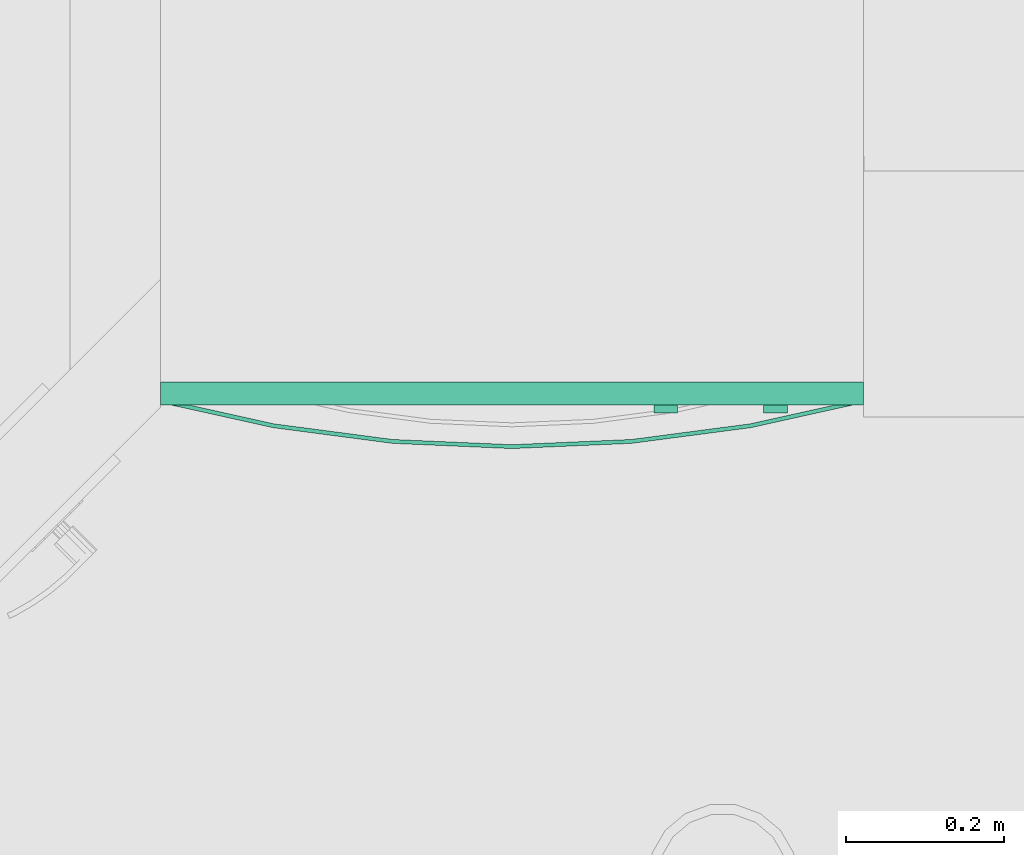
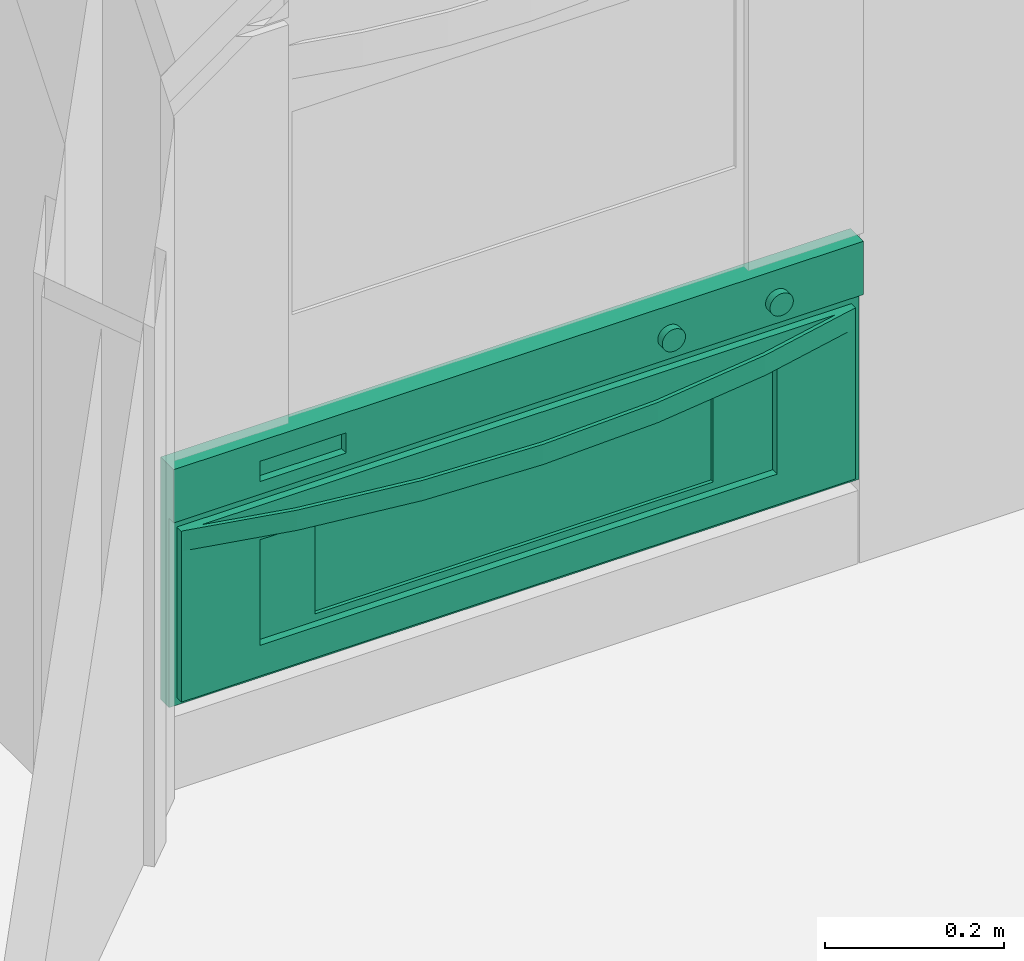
# One storey, part 43 of 103: 1 flow terminal.
"""IFC2X3 building model written with IfcOpenShell, lengths in inches."""

from ifc_helpers import new_model, entity, si_unit, converted_unit, derived_unit, money_unit, direction, frame, origin_with_axes, place, context, subcontext, project, spatial, faceted_brep, type_object, element, save


model = new_model("IFC2X3")

# Units and contexts
model_context = context("Model", 3, precision=0.00039370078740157, world=origin_with_axes(), true_north=direction((0.0, 1.0)))
plan_context = context("Plan", 3, precision=0.00039370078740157, world=origin_with_axes(), true_north=direction((0.0, 1.0)))
body_context = subcontext(model_context, "Body", "Model", "MODEL_VIEW")
ifc_project = project(units=[converted_unit("LENGTHUNIT", "INCH", entity("IfcPositiveLengthMeasure", 0.0254), si_unit("LENGTHUNIT", "METRE"), dimensions=[1, 0, 0, 0, 0, 0, 0]), converted_unit("AREAUNIT", "SQUARE_FOOT", entity("IfcPositiveLengthMeasure", 0.09290304), si_unit("AREAUNIT", "SQUARE_METRE"), dimensions=[2, 0, 0, 0, 0, 0, 0]), si_unit("PLANEANGLEUNIT", "RADIAN"), si_unit("SOLIDANGLEUNIT", "STERADIAN"), money_unit("USD"), converted_unit("TIMEUNIT", "Year", entity("IfcTimeMeasure", 31557600.0), si_unit("TIMEUNIT", "SECOND"), dimensions=[0, 0, 1, 0, 0, 0, 0]), si_unit("MASSUNIT", "GRAM", prefix="KILO"), si_unit("THERMODYNAMICTEMPERATUREUNIT", "DEGREE_CELSIUS"), si_unit("LUMINOUSINTENSITYUNIT", "LUMEN"), si_unit("ENERGYUNIT", "JOULE", prefix="MEGA"), derived_unit("SPECIFICHEATCAPACITYUNIT", [(si_unit("ENERGYUNIT", "JOULE"), 1), (si_unit("MASSUNIT", "GRAM", prefix="KILO"), -1), (si_unit("THERMODYNAMICTEMPERATUREUNIT", "KELVIN"), -1)])], contexts=[model_context, plan_context])

# Site, building, storey
site_placement = place(None, origin_with_axes())
site = spatial("IfcSite", under=ifc_project, at=site_placement, Name="Site", CompositionType="ELEMENT")
building_placement = place(site_placement, origin_with_axes())
building = spatial("IfcBuilding", under=site, at=building_placement, Name="Building", CompositionType="ELEMENT")
storey_placement = place(building_placement, frame((0.0, 0.0, 127.9999999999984), z_axis=(0.0, 0.0, 1.0), x_axis=(1.0, 0.0, 0.0)))
storey = spatial("IfcBuildingStorey", under=building, at=storey_placement, Name="Second Floor", CompositionType="ELEMENT", Elevation=128.0)

# Flow terminal
electric_appliance_type = type_object("IfcElectricApplianceType", Name="Oven Built-in", PredefinedType="NOTDEFINED")
flow_terminal_placement = place(storey_placement, frame((28.99952142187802, 371.4926862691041, 4.555499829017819), z_axis=(0.0, 0.0, 1.0), x_axis=(0.9999999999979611, 2.01938114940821e-06, 0.0)))
element("IfcFlowTerminal", 1, at=flow_terminal_placement, inside=storey, type_object=electric_appliance_type, Name="OBJ-20", context=body_context, shape_type="Brep", body=[
    faceted_brep([(0.0, 0.7499999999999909, 0.0), (34.99999999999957, 0.7499999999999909, 0.0), (34.99999999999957, 0.0, 0.0), (0.0, 0.0, 0.0), (0.0, 0.7499999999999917, 12.99999999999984), (34.99999999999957, 0.7499999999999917, 12.99999999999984), (7.393700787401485, 0.749999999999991, 2.43749999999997), (27.60629921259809, 0.749999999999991, 2.43749999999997), (27.60629921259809, 0.7499999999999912, 7.31249999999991), (7.393700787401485, 0.7499999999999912, 7.31249999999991), (34.99999999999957, 0.0, 12.99999999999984), (0.0, 0.0, 12.99999999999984), (7.393700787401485, 0.0, 2.43749999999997), (7.393700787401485, 0.0, 7.31249999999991), (27.60629921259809, 0.0, 7.31249999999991), (27.60629921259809, 0.0, 2.43749999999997)], [[[0, 1, 2, 3]], [[0, 4, 5, 1], [6, 7, 8, 9]], [[1, 5, 10, 2]], [[3, 2, 10, 11], [12, 13, 14, 15]], [[4, 0, 3, 11]], [[5, 4, 11, 10]], [[7, 6, 12, 15]], [[8, 7, 15, 14]], [[9, 8, 14, 13]], [[6, 9, 13, 12]]]),
    faceted_brep([(7.393700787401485, 0.5624999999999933, 2.43749999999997), (27.60629921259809, 0.5624999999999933, 2.43749999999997), (27.60629921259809, 0.1874999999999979, 2.43749999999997), (7.393700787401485, 0.1874999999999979, 2.43749999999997), (7.393700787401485, 0.5624999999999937, 7.31249999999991), (27.60629921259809, 0.5624999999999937, 7.31249999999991), (27.60629921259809, 0.1874999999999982, 7.31249999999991), (7.393700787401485, 0.1874999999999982, 7.31249999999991)], [[[0, 1, 2, 3]], [[0, 4, 5, 1]], [[1, 5, 6, 2]], [[3, 2, 6, 7]], [[4, 0, 3, 7]], [[5, 4, 7, 6]]]),
    faceted_brep([(0.39370078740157, 0.0, 0.39370078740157), (34.606299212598, 0.0, 0.39370078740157), (34.606299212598, -0.39370078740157, 0.39370078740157), (0.39370078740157, -0.39370078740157, 0.39370078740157), (0.39370078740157, 0.0, 9.553149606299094), (34.606299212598, 0.0, 9.553149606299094), (4.374999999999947, 0.0, 2.0437992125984), (30.62499999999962, 0.0, 2.0437992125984), (30.62499999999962, 0.0, 7.706200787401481), (4.374999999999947, 0.0, 7.706200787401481), (34.606299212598, -0.3937007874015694, 9.553149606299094), (0.39370078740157, -0.3937007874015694, 9.553149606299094), (4.374999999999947, -0.3937007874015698, 2.0437992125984), (4.374999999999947, -0.3937007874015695, 7.706200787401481), (30.62499999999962, -0.3937007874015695, 7.706200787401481), (30.62499999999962, -0.3937007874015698, 2.0437992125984)], [[[0, 1, 2, 3]], [[0, 4, 5, 1], [6, 7, 8, 9]], [[1, 5, 10, 2]], [[3, 2, 10, 11], [12, 13, 14, 15]], [[4, 0, 3, 11]], [[5, 4, 11, 10]], [[7, 6, 12, 15]], [[8, 7, 15, 14]], [[9, 8, 14, 13]], [[6, 9, 13, 12]]]),
    faceted_brep([(0.0, 0.0, 10.14370078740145), (34.99999999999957, 0.0, 10.14370078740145), (34.99999999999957, -0.39370078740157, 10.14370078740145), (0.0, -0.39370078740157, 10.14370078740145), (0.0, 0.0, 12.99999999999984), (34.99999999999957, 0.0, 12.99999999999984), (4.374999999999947, 0.0, 11.91666666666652), (4.374999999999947, 0.0, 10.8333333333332), (8.749999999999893, 0.0, 10.8333333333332), (8.749999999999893, 0.0, 11.91666666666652), (34.99999999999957, -0.3937007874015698, 12.99999999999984), (0.0, -0.3937007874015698, 12.99999999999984), (4.374999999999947, -0.3937007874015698, 11.91666666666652), (8.749999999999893, -0.3937007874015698, 11.91666666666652), (8.749999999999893, -0.3937007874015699, 10.8333333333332), (4.374999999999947, -0.3937007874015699, 10.8333333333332)], [[[0, 1, 2, 3]], [[0, 4, 5, 1], [6, 7, 8, 9]], [[1, 5, 10, 2]], [[3, 2, 10, 11], [12, 13, 14, 15]], [[4, 0, 3, 11]], [[5, 4, 11, 10]], [[7, 6, 12, 15]], [[8, 7, 15, 14]], [[9, 8, 14, 13]], [[6, 9, 13, 12]]]),
    faceted_brep([(0.5063180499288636, -0.3937007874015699, 8.469816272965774), (5.61808926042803, -1.526953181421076, 8.469816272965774), (5.61808926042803, -1.526953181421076, 9.553149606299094), (0.506318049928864, -0.3937007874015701, 9.553149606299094), (34.49368195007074, -0.3937007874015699, 8.469816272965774), (29.38191073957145, -1.526953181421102, 8.469816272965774), (23.46364885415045, -2.306107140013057, 8.469816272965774), (17.49999999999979, -2.566485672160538, 8.469816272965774), (11.53635114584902, -2.306107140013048, 8.469816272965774), (1.414945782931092, -0.39370078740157, 8.469816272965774), (5.652271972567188, -1.333093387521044, 8.469816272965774), (11.55350778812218, -2.110005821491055, 8.469816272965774), (17.49999999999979, -2.369635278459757, 8.469816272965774), (23.44649221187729, -2.110005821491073, 8.469816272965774), (29.34772802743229, -1.333093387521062, 8.469816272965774), (33.58505421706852, -0.39370078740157, 8.469816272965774), (11.53635114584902, -2.306107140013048, 9.553149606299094), (17.49999999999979, -2.566485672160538, 9.553149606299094), (23.46364885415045, -2.306107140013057, 9.553149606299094), (29.38191073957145, -1.526953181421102, 9.553149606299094), (34.49368195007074, -0.3937007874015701, 9.553149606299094), (33.58505421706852, -0.3937007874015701, 9.553149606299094), (29.34772802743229, -1.333093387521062, 9.553149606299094), (23.44649221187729, -2.110005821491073, 9.553149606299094), (17.49999999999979, -2.369635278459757, 9.553149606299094), (11.55350778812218, -2.110005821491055, 9.553149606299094), (5.652271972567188, -1.333093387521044, 9.553149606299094), (1.414945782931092, -0.3937007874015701, 9.553149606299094)], [[[0, 1, 2, 3]], [[4, 5, 6, 7, 8, 1, 0, 9, 10, 11, 12, 13, 14, 15]], [[1, 8, 16, 2]], [[3, 2, 16, 17, 18, 19, 20, 21, 22, 23, 24, 25, 26, 27]], [[0, 3, 27, 9]], [[5, 4, 20, 19]], [[6, 5, 19, 18]], [[7, 6, 18, 17]], [[8, 7, 17, 16]], [[10, 9, 27, 26]], [[11, 10, 26, 25]], [[12, 11, 25, 24]], [[13, 12, 24, 23]], [[14, 13, 23, 22]], [[15, 14, 22, 21]], [[4, 15, 21, 20]]]),
    faceted_brep([(31.21330395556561, -0.39370078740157, 11.32353007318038), (31.20657938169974, -0.39370078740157, 11.27245186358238), (31.1954286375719, -0.39370078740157, 11.22215410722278), (31.17993658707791, -0.39370078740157, 11.17301960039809), (31.16022113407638, -0.39370078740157, 11.12542228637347), (31.13643232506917, -0.39370078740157, 11.07972440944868), (31.1087512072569, -0.39370078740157, 11.03627375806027), (31.07738845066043, -0.39370078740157, 10.99540101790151), (31.04258274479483, -0.39370078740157, 10.95741725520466), (31.00459898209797, -0.39370078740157, 10.92261154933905), (30.96372624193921, -0.39370078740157, 10.89124879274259), (30.9202755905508, -0.39370078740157, 10.86356767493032), (30.87457771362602, -0.39370078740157, 10.8397788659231), (30.8269803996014, -0.39370078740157, 10.82006341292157), (30.7778458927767, -0.3937007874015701, 10.80457136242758), (30.7275481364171, -0.3937007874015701, 10.79342061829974), (30.67646992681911, -0.3937007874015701, 10.78669604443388), (30.62499999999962, -0.3937007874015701, 10.7844488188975), (30.57353007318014, -0.3937007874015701, 10.78669604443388), (30.52245186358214, -0.3937007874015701, 10.79342061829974), (30.47215410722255, -0.3937007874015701, 10.80457136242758), (30.42301960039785, -0.39370078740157, 10.82006341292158), (30.37542228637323, -0.39370078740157, 10.8397788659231), (30.32972440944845, -0.39370078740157, 10.86356767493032), (30.28627375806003, -0.39370078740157, 10.89124879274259), (30.24540101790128, -0.39370078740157, 10.92261154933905), (30.20741725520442, -0.39370078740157, 10.95741725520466), (30.17261154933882, -0.39370078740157, 10.99540101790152), (30.14124879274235, -0.39370078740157, 11.03627375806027), (30.11356767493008, -0.39370078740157, 11.07972440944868), (30.08977886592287, -0.39370078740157, 11.12542228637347), (30.07006341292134, -0.39370078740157, 11.17301960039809), (30.05457136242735, -0.39370078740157, 11.22215410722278), (30.04342061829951, -0.39370078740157, 11.27245186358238), (30.03669604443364, -0.39370078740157, 11.32353007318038), (30.03444881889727, -0.39370078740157, 11.37499999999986), (30.03669604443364, -0.39370078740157, 11.42646992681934), (30.04342061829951, -0.39370078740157, 11.47754813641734), (30.05457136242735, -0.39370078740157, 11.52784589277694), (30.07006341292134, -0.39370078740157, 11.57698039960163), (30.08977886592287, -0.39370078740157, 11.62457771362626), (30.11356767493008, -0.39370078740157, 11.67027559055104), (30.14124879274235, -0.39370078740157, 11.71372624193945), (30.17261154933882, -0.39370078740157, 11.75459898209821), (30.20741725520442, -0.39370078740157, 11.79258274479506), (30.24540101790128, -0.39370078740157, 11.82738845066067), (30.28627375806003, -0.39370078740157, 11.85875120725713), (30.32972440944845, -0.39370078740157, 11.88643232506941), (30.37542228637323, -0.39370078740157, 11.91022113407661), (30.42301960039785, -0.39370078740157, 11.92993658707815), (30.47215410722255, -0.3937007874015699, 11.94542863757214), (30.52245186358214, -0.3937007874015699, 11.95657938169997), (30.57353007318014, -0.3937007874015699, 11.96330395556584), (30.62499999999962, -0.3937007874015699, 11.96555118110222), (30.67646992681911, -0.3937007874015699, 11.96330395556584), (30.7275481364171, -0.3937007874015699, 11.95657938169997), (30.7778458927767, -0.3937007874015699, 11.94542863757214), (30.8269803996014, -0.39370078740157, 11.92993658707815), (30.87457771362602, -0.39370078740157, 11.91022113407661), (30.9202755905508, -0.39370078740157, 11.88643232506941), (30.96372624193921, -0.39370078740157, 11.85875120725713), (31.00459898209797, -0.39370078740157, 11.82738845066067), (31.04258274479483, -0.39370078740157, 11.79258274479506), (31.07738845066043, -0.39370078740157, 11.75459898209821), (31.1087512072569, -0.39370078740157, 11.71372624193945), (31.13643232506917, -0.39370078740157, 11.67027559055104), (31.16022113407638, -0.39370078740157, 11.62457771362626), (31.17993658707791, -0.39370078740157, 11.57698039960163), (31.1954286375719, -0.39370078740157, 11.52784589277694), (31.20657938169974, -0.39370078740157, 11.47754813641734), (31.21330395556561, -0.39370078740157, 11.42646992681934), (31.21555118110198, -0.39370078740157, 11.37499999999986), (31.21330395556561, -0.78740157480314, 11.32353007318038), (31.20657938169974, -0.78740157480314, 11.27245186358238), (31.1954286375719, -0.78740157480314, 11.22215410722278), (31.17993658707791, -0.78740157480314, 11.17301960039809), (31.16022113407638, -0.78740157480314, 11.12542228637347), (31.13643232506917, -0.78740157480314, 11.07972440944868), (31.1087512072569, -0.78740157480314, 11.03627375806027), (31.07738845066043, -0.78740157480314, 10.99540101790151), (31.04258274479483, -0.78740157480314, 10.95741725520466), (31.00459898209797, -0.78740157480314, 10.92261154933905), (30.96372624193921, -0.78740157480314, 10.89124879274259), (30.9202755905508, -0.78740157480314, 10.86356767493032), (30.87457771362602, -0.78740157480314, 10.8397788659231), (30.8269803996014, -0.78740157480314, 10.82006341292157), (30.7778458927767, -0.7874015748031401, 10.80457136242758), (30.7275481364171, -0.7874015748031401, 10.79342061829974), (30.67646992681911, -0.7874015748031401, 10.78669604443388), (30.62499999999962, -0.7874015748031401, 10.7844488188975), (30.57353007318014, -0.7874015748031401, 10.78669604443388), (30.52245186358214, -0.7874015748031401, 10.79342061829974), (30.47215410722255, -0.7874015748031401, 10.80457136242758), (30.42301960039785, -0.78740157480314, 10.82006341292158), (30.37542228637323, -0.78740157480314, 10.8397788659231), (30.32972440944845, -0.78740157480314, 10.86356767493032), (30.28627375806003, -0.78740157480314, 10.89124879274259), (30.24540101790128, -0.78740157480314, 10.92261154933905), (30.20741725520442, -0.78740157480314, 10.95741725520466), (30.17261154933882, -0.78740157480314, 10.99540101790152), (30.14124879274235, -0.78740157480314, 11.03627375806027), (30.11356767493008, -0.78740157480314, 11.07972440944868), (30.08977886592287, -0.78740157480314, 11.12542228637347), (30.07006341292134, -0.78740157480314, 11.17301960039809), (30.05457136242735, -0.78740157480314, 11.22215410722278), (30.04342061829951, -0.78740157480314, 11.27245186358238), (30.03669604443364, -0.78740157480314, 11.32353007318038), (30.03444881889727, -0.78740157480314, 11.37499999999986), (30.03669604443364, -0.78740157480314, 11.42646992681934), (30.04342061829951, -0.78740157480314, 11.47754813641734), (30.05457136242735, -0.78740157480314, 11.52784589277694), (30.07006341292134, -0.78740157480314, 11.57698039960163), (30.08977886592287, -0.78740157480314, 11.62457771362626), (30.11356767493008, -0.78740157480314, 11.67027559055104), (30.14124879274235, -0.78740157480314, 11.71372624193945), (30.17261154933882, -0.78740157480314, 11.75459898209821), (30.20741725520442, -0.78740157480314, 11.79258274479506), (30.24540101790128, -0.78740157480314, 11.82738845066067), (30.28627375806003, -0.78740157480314, 11.85875120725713), (30.32972440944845, -0.78740157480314, 11.88643232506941), (30.37542228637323, -0.78740157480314, 11.91022113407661), (30.42301960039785, -0.78740157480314, 11.92993658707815), (30.47215410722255, -0.7874015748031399, 11.94542863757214), (30.52245186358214, -0.7874015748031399, 11.95657938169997), (30.57353007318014, -0.7874015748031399, 11.96330395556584), (30.62499999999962, -0.7874015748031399, 11.96555118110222), (30.67646992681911, -0.7874015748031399, 11.96330395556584), (30.7275481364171, -0.7874015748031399, 11.95657938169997), (30.7778458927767, -0.7874015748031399, 11.94542863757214), (30.8269803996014, -0.78740157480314, 11.92993658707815), (30.87457771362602, -0.78740157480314, 11.91022113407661), (30.9202755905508, -0.78740157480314, 11.88643232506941), (30.96372624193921, -0.78740157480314, 11.85875120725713), (31.00459898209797, -0.78740157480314, 11.82738845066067), (31.04258274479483, -0.78740157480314, 11.79258274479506), (31.07738845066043, -0.78740157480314, 11.75459898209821), (31.1087512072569, -0.78740157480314, 11.71372624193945), (31.13643232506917, -0.78740157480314, 11.67027559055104), (31.16022113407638, -0.78740157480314, 11.62457771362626), (31.17993658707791, -0.78740157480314, 11.57698039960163), (31.1954286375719, -0.78740157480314, 11.52784589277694), (31.20657938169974, -0.78740157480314, 11.47754813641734), (31.21330395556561, -0.78740157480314, 11.42646992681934), (31.21555118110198, -0.78740157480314, 11.37499999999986)], [[[0, 1, 2, 3, 4, 5, 6, 7, 8, 9, 10, 11, 12, 13, 14, 15, 16, 17, 18, 19, 20, 21, 22, 23, 24, 25, 26, 27, 28, 29, 30, 31, 32, 33, 34, 35, 36, 37, 38, 39, 40, 41, 42, 43, 44, 45, 46, 47, 48, 49, 50, 51, 52, 53, 54, 55, 56, 57, 58, 59, 60, 61, 62, 63, 64, 65, 66, 67, 68, 69, 70, 71]], [[1, 0, 72, 73]], [[2, 1, 73, 74]], [[3, 2, 74, 75]], [[4, 3, 75, 76]], [[5, 4, 76, 77]], [[6, 5, 77, 78]], [[7, 6, 78, 79]], [[8, 7, 79, 80]], [[9, 8, 80, 81]], [[10, 9, 81, 82]], [[11, 10, 82, 83]], [[12, 11, 83, 84]], [[13, 12, 84, 85]], [[14, 13, 85, 86]], [[15, 14, 86, 87]], [[16, 15, 87, 88]], [[17, 16, 88, 89]], [[18, 17, 89, 90]], [[19, 18, 90, 91]], [[20, 19, 91, 92]], [[21, 20, 92, 93]], [[22, 21, 93, 94]], [[23, 22, 94, 95]], [[24, 23, 95, 96]], [[25, 24, 96, 97]], [[26, 25, 97, 98]], [[27, 26, 98, 99]], [[28, 27, 99, 100]], [[29, 28, 100, 101]], [[30, 29, 101, 102]], [[31, 30, 102, 103]], [[32, 31, 103, 104]], [[33, 32, 104, 105]], [[34, 33, 105, 106]], [[35, 34, 106, 107]], [[36, 35, 107, 108]], [[37, 36, 108, 109]], [[38, 37, 109, 110]], [[39, 38, 110, 111]], [[40, 39, 111, 112]], [[41, 40, 112, 113]], [[42, 41, 113, 114]], [[43, 42, 114, 115]], [[44, 43, 115, 116]], [[45, 44, 116, 117]], [[46, 45, 117, 118]], [[47, 46, 118, 119]], [[48, 47, 119, 120]], [[49, 48, 120, 121]], [[50, 49, 121, 122]], [[51, 50, 122, 123]], [[52, 51, 123, 124]], [[53, 52, 124, 125]], [[54, 53, 125, 126]], [[55, 54, 126, 127]], [[56, 55, 127, 128]], [[57, 56, 128, 129]], [[58, 57, 129, 130]], [[59, 58, 130, 131]], [[60, 59, 131, 132]], [[61, 60, 132, 133]], [[62, 61, 133, 134]], [[63, 62, 134, 135]], [[64, 63, 135, 136]], [[65, 64, 136, 137]], [[66, 65, 137, 138]], [[67, 66, 138, 139]], [[68, 67, 139, 140]], [[69, 68, 140, 141]], [[70, 69, 141, 142]], [[71, 70, 142, 143]], [[0, 71, 143, 72]], [[72, 143, 142, 141, 140, 139, 138, 137, 136, 135, 134, 133, 132, 131, 130, 129, 128, 127, 126, 125, 124, 123, 122, 121, 120, 119, 118, 117, 116, 115, 114, 113, 112, 111, 110, 109, 108, 107, 106, 105, 104, 103, 102, 101, 100, 99, 98, 97, 96, 95, 94, 93, 92, 91, 90, 89, 88, 87, 86, 85, 84, 83, 82, 81, 80, 79, 78, 77, 76, 75, 74, 73]]]),
    faceted_brep([(25.74455395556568, -0.39370078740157, 11.32353007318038), (25.73782938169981, -0.39370078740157, 11.27245186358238), (25.72667863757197, -0.39370078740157, 11.22215410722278), (25.71118658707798, -0.39370078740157, 11.17301960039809), (25.69147113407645, -0.39370078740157, 11.12542228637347), (25.66768232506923, -0.39370078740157, 11.07972440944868), (25.64000120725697, -0.39370078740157, 11.03627375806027), (25.6086384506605, -0.39370078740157, 10.99540101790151), (25.57383274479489, -0.39370078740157, 10.95741725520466), (25.53584898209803, -0.39370078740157, 10.92261154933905), (25.49497624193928, -0.39370078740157, 10.89124879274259), (25.45152559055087, -0.39370078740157, 10.86356767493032), (25.40582771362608, -0.39370078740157, 10.8397788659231), (25.35823039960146, -0.39370078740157, 10.82006341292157), (25.30909589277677, -0.3937007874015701, 10.80457136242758), (25.25879813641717, -0.3937007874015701, 10.79342061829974), (25.20771992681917, -0.3937007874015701, 10.78669604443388), (25.15624999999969, -0.3937007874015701, 10.7844488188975), (25.1047800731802, -0.3937007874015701, 10.78669604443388), (25.05370186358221, -0.3937007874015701, 10.79342061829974), (25.00340410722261, -0.3937007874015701, 10.80457136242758), (24.95426960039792, -0.39370078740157, 10.82006341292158), (24.90667228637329, -0.39370078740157, 10.8397788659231), (24.86097440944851, -0.39370078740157, 10.86356767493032), (24.8175237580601, -0.39370078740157, 10.89124879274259), (24.77665101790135, -0.39370078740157, 10.92261154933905), (24.73866725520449, -0.39370078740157, 10.95741725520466), (24.70386154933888, -0.39370078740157, 10.99540101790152), (24.67249879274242, -0.39370078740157, 11.03627375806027), (24.64481767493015, -0.39370078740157, 11.07972440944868), (24.62102886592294, -0.39370078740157, 11.12542228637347), (24.6013134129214, -0.39370078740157, 11.17301960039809), (24.58582136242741, -0.39370078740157, 11.22215410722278), (24.57467061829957, -0.39370078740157, 11.27245186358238), (24.5679460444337, -0.39370078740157, 11.32353007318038), (24.56569881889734, -0.39370078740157, 11.37499999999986), (24.5679460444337, -0.39370078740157, 11.42646992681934), (24.57467061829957, -0.39370078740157, 11.47754813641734), (24.58582136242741, -0.39370078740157, 11.52784589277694), (24.6013134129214, -0.39370078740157, 11.57698039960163), (24.62102886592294, -0.39370078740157, 11.62457771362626), (24.64481767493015, -0.39370078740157, 11.67027559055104), (24.67249879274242, -0.39370078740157, 11.71372624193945), (24.70386154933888, -0.39370078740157, 11.75459898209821), (24.73866725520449, -0.39370078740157, 11.79258274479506), (24.77665101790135, -0.39370078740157, 11.82738845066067), (24.8175237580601, -0.39370078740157, 11.85875120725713), (24.86097440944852, -0.39370078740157, 11.88643232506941), (24.9066722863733, -0.39370078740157, 11.91022113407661), (24.95426960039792, -0.39370078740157, 11.92993658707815), (25.00340410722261, -0.3937007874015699, 11.94542863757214), (25.05370186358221, -0.3937007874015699, 11.95657938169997), (25.1047800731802, -0.3937007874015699, 11.96330395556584), (25.15624999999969, -0.3937007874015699, 11.96555118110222), (25.20771992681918, -0.3937007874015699, 11.96330395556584), (25.25879813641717, -0.3937007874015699, 11.95657938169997), (25.30909589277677, -0.3937007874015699, 11.94542863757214), (25.35823039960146, -0.39370078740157, 11.92993658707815), (25.40582771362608, -0.39370078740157, 11.91022113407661), (25.45152559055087, -0.39370078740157, 11.88643232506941), (25.49497624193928, -0.39370078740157, 11.85875120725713), (25.53584898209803, -0.39370078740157, 11.82738845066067), (25.57383274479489, -0.39370078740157, 11.79258274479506), (25.6086384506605, -0.39370078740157, 11.75459898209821), (25.64000120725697, -0.39370078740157, 11.71372624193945), (25.66768232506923, -0.39370078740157, 11.67027559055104), (25.69147113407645, -0.39370078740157, 11.62457771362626), (25.71118658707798, -0.39370078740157, 11.57698039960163), (25.72667863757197, -0.39370078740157, 11.52784589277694), (25.73782938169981, -0.39370078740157, 11.47754813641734), (25.74455395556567, -0.39370078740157, 11.42646992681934), (25.74680118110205, -0.39370078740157, 11.37499999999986), (25.74455395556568, -0.78740157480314, 11.32353007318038), (25.73782938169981, -0.78740157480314, 11.27245186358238), (25.72667863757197, -0.78740157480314, 11.22215410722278), (25.71118658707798, -0.78740157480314, 11.17301960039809), (25.69147113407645, -0.78740157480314, 11.12542228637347), (25.66768232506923, -0.78740157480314, 11.07972440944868), (25.64000120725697, -0.78740157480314, 11.03627375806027), (25.6086384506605, -0.78740157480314, 10.99540101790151), (25.57383274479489, -0.78740157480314, 10.95741725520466), (25.53584898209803, -0.78740157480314, 10.92261154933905), (25.49497624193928, -0.78740157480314, 10.89124879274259), (25.45152559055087, -0.78740157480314, 10.86356767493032), (25.40582771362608, -0.78740157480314, 10.8397788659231), (25.35823039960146, -0.78740157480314, 10.82006341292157), (25.30909589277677, -0.7874015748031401, 10.80457136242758), (25.25879813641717, -0.7874015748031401, 10.79342061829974), (25.20771992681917, -0.7874015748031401, 10.78669604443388), (25.15624999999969, -0.7874015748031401, 10.7844488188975), (25.1047800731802, -0.7874015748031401, 10.78669604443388), (25.05370186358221, -0.7874015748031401, 10.79342061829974), (25.00340410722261, -0.7874015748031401, 10.80457136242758), (24.95426960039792, -0.78740157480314, 10.82006341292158), (24.90667228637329, -0.78740157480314, 10.8397788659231), (24.86097440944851, -0.78740157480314, 10.86356767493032), (24.8175237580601, -0.78740157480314, 10.89124879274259), (24.77665101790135, -0.78740157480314, 10.92261154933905), (24.73866725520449, -0.78740157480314, 10.95741725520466), (24.70386154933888, -0.78740157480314, 10.99540101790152), (24.67249879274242, -0.78740157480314, 11.03627375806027), (24.64481767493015, -0.78740157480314, 11.07972440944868), (24.62102886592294, -0.78740157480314, 11.12542228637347), (24.6013134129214, -0.78740157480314, 11.17301960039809), (24.58582136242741, -0.78740157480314, 11.22215410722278), (24.57467061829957, -0.78740157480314, 11.27245186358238), (24.5679460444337, -0.78740157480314, 11.32353007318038), (24.56569881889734, -0.78740157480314, 11.37499999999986), (24.5679460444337, -0.78740157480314, 11.42646992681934), (24.57467061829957, -0.78740157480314, 11.47754813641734), (24.58582136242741, -0.78740157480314, 11.52784589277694), (24.6013134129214, -0.78740157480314, 11.57698039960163), (24.62102886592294, -0.78740157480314, 11.62457771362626), (24.64481767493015, -0.78740157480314, 11.67027559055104), (24.67249879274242, -0.78740157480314, 11.71372624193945), (24.70386154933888, -0.78740157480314, 11.75459898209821), (24.73866725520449, -0.78740157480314, 11.79258274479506), (24.77665101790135, -0.78740157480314, 11.82738845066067), (24.8175237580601, -0.78740157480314, 11.85875120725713), (24.86097440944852, -0.78740157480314, 11.88643232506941), (24.9066722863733, -0.78740157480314, 11.91022113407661), (24.95426960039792, -0.78740157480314, 11.92993658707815), (25.00340410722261, -0.7874015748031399, 11.94542863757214), (25.05370186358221, -0.7874015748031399, 11.95657938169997), (25.1047800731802, -0.7874015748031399, 11.96330395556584), (25.15624999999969, -0.7874015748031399, 11.96555118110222), (25.20771992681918, -0.7874015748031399, 11.96330395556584), (25.25879813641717, -0.7874015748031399, 11.95657938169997), (25.30909589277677, -0.7874015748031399, 11.94542863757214), (25.35823039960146, -0.78740157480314, 11.92993658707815), (25.40582771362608, -0.78740157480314, 11.91022113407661), (25.45152559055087, -0.78740157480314, 11.88643232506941), (25.49497624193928, -0.78740157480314, 11.85875120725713), (25.53584898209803, -0.78740157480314, 11.82738845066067), (25.57383274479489, -0.78740157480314, 11.79258274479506), (25.6086384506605, -0.78740157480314, 11.75459898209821), (25.64000120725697, -0.78740157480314, 11.71372624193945), (25.66768232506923, -0.78740157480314, 11.67027559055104), (25.69147113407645, -0.78740157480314, 11.62457771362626), (25.71118658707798, -0.78740157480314, 11.57698039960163), (25.72667863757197, -0.78740157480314, 11.52784589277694), (25.73782938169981, -0.78740157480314, 11.47754813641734), (25.74455395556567, -0.78740157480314, 11.42646992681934), (25.74680118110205, -0.78740157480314, 11.37499999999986)], [[[0, 1, 2, 3, 4, 5, 6, 7, 8, 9, 10, 11, 12, 13, 14, 15, 16, 17, 18, 19, 20, 21, 22, 23, 24, 25, 26, 27, 28, 29, 30, 31, 32, 33, 34, 35, 36, 37, 38, 39, 40, 41, 42, 43, 44, 45, 46, 47, 48, 49, 50, 51, 52, 53, 54, 55, 56, 57, 58, 59, 60, 61, 62, 63, 64, 65, 66, 67, 68, 69, 70, 71]], [[1, 0, 72, 73]], [[2, 1, 73, 74]], [[3, 2, 74, 75]], [[4, 3, 75, 76]], [[5, 4, 76, 77]], [[6, 5, 77, 78]], [[7, 6, 78, 79]], [[8, 7, 79, 80]], [[9, 8, 80, 81]], [[10, 9, 81, 82]], [[11, 10, 82, 83]], [[12, 11, 83, 84]], [[13, 12, 84, 85]], [[14, 13, 85, 86]], [[15, 14, 86, 87]], [[16, 15, 87, 88]], [[17, 16, 88, 89]], [[18, 17, 89, 90]], [[19, 18, 90, 91]], [[20, 19, 91, 92]], [[21, 20, 92, 93]], [[22, 21, 93, 94]], [[23, 22, 94, 95]], [[24, 23, 95, 96]], [[25, 24, 96, 97]], [[26, 25, 97, 98]], [[27, 26, 98, 99]], [[28, 27, 99, 100]], [[29, 28, 100, 101]], [[30, 29, 101, 102]], [[31, 30, 102, 103]], [[32, 31, 103, 104]], [[33, 32, 104, 105]], [[34, 33, 105, 106]], [[35, 34, 106, 107]], [[36, 35, 107, 108]], [[37, 36, 108, 109]], [[38, 37, 109, 110]], [[39, 38, 110, 111]], [[40, 39, 111, 112]], [[41, 40, 112, 113]], [[42, 41, 113, 114]], [[43, 42, 114, 115]], [[44, 43, 115, 116]], [[45, 44, 116, 117]], [[46, 45, 117, 118]], [[47, 46, 118, 119]], [[48, 47, 119, 120]], [[49, 48, 120, 121]], [[50, 49, 121, 122]], [[51, 50, 122, 123]], [[52, 51, 123, 124]], [[53, 52, 124, 125]], [[54, 53, 125, 126]], [[55, 54, 126, 127]], [[56, 55, 127, 128]], [[57, 56, 128, 129]], [[58, 57, 129, 130]], [[59, 58, 130, 131]], [[60, 59, 131, 132]], [[61, 60, 132, 133]], [[62, 61, 133, 134]], [[63, 62, 134, 135]], [[64, 63, 135, 136]], [[65, 64, 136, 137]], [[66, 65, 137, 138]], [[67, 66, 138, 139]], [[68, 67, 139, 140]], [[69, 68, 140, 141]], [[70, 69, 141, 142]], [[71, 70, 142, 143]], [[0, 71, 143, 72]], [[72, 143, 142, 141, 140, 139, 138, 137, 136, 135, 134, 133, 132, 131, 130, 129, 128, 127, 126, 125, 124, 123, 122, 121, 120, 119, 118, 117, 116, 115, 114, 113, 112, 111, 110, 109, 108, 107, 106, 105, 104, 103, 102, 101, 100, 99, 98, 97, 96, 95, 94, 93, 92, 91, 90, 89, 88, 87, 86, 85, 84, 83, 82, 81, 80, 79, 78, 77, 76, 75, 74, 73]]]),
])

save(model, "model.ifc")
